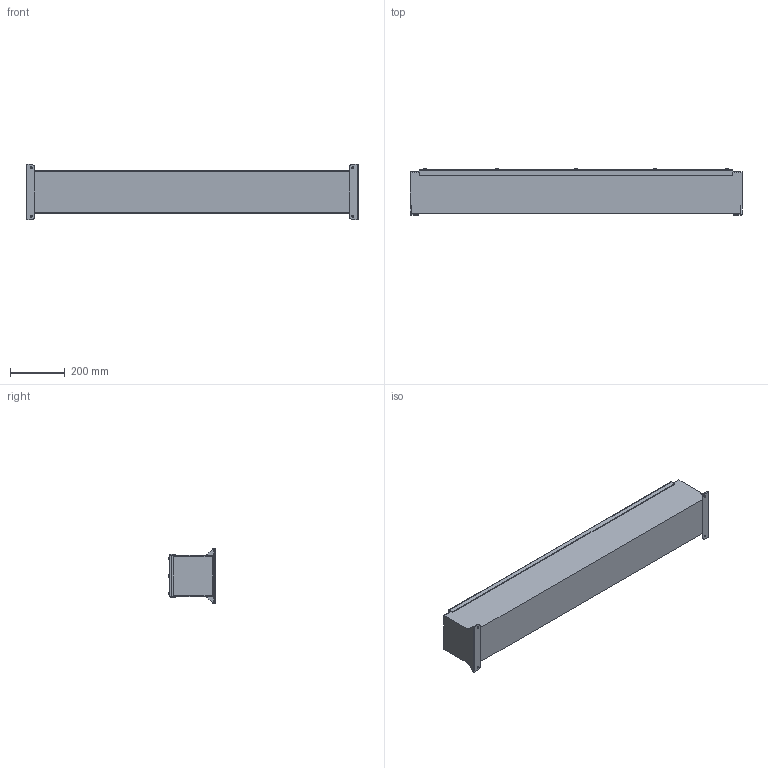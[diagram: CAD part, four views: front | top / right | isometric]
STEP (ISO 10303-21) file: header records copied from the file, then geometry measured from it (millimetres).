
FILE_DESCRIPTION((''),'1');
FILE_NAME('9','2001-04-18T',('jlue'),(''),'PRO/ENGINEER BY PARAMETRIC TECHNOLOGY CORPORATION, 9846','PRO/ENGINEER BY PARAMETRIC TECHNOLOGY CORPORATION, 9846','');
FILE_SCHEMA(('CONFIG_CONTROL_DESIGN'));
Length unit declared in the file: inch
Products named in the file (1): 9
Bounding box: 1216.15 x 168.68 x 203.2 mm (x, y, z)
Surface area: 1743334.6 mm2 (no closed solid volume)
Topology: 0 solids, 0 shells, 269 faces, 1478 edges, 1482 vertices
Faces by surface type: plane 151, cylinder 94, torus 24
Entity records: 7988 total; most frequent: CARTESIAN_POINT 1942, DIRECTION 1451, COMPOSITE_CURVE_SEGMENT 1402, TRIMMED_CURVE 653, AXIS2_PLACEMENT_3D 529, VECTOR 393, LINE 393, CURVE_BOUNDED_SURFACE 269
